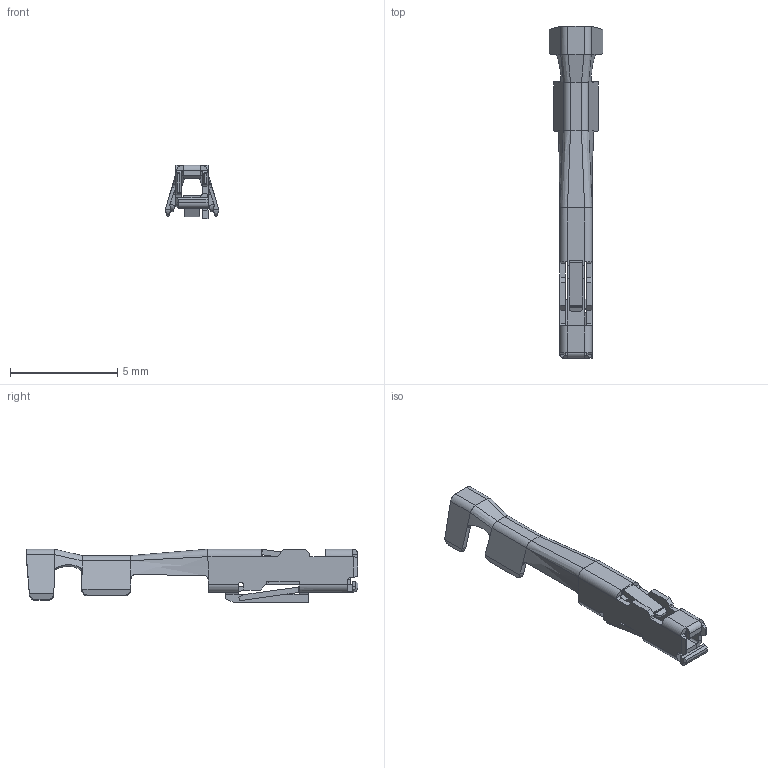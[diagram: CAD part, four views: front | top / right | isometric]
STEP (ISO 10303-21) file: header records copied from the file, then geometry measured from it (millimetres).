
FILE_DESCRIPTION((''),'2;1');
FILE_NAME('9XXXX','2017-07-06T',('k70447'),(''),'PRO/ENGINEER BY PARAMETRIC TECHNOLOGY CORPORATION, 2009360','PRO/ENGINEER BY PARAMETRIC TECHNOLOGY CORPORATION, 2009360','');
FILE_SCHEMA(('CONFIG_CONTROL_DESIGN'));
Length unit declared in the file: millimetre
Products named in the file (1): 9XXXX
Bounding box: 2.5 x 15.5 x 2.5 mm (x, y, z)
Volume: 17 mm3; surface area: 162.1 mm2
Topology: 2 solids, 2 shells, 321 faces, 770 edges, 450 vertices
Faces by surface type: plane 210, cylinder 73, bspline 37, cone 1
Entity records: 9954 total; most frequent: CARTESIAN_POINT 2833, ORIENTED_EDGE 1540, DIRECTION 1331, EDGE_CURVE 770, VECTOR 543, LINE 543, VERTEX_POINT 450, AXIS2_PLACEMENT_3D 394
